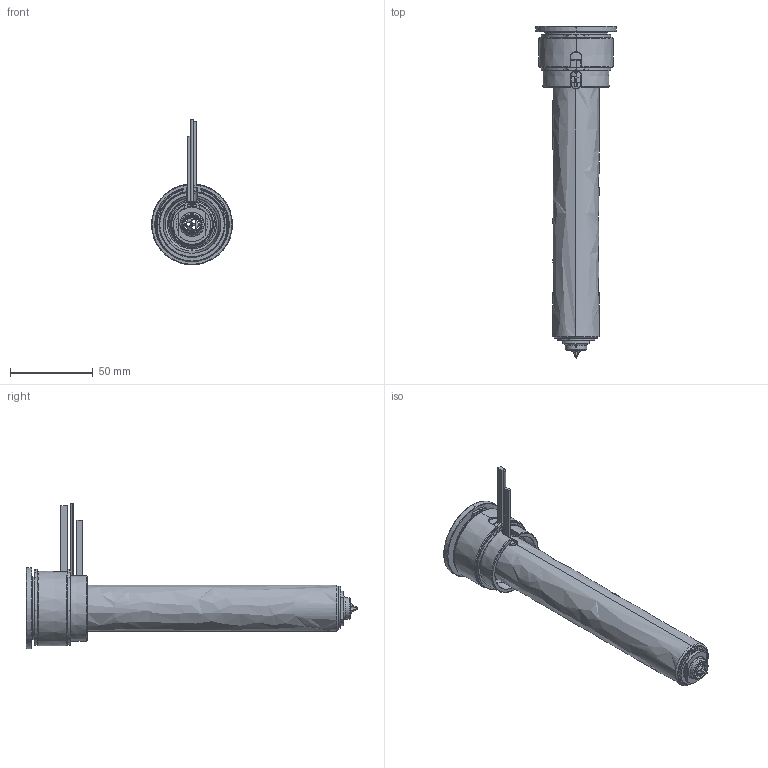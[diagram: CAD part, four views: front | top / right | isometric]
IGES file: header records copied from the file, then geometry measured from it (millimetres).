
Start section: SolidWorks IGES file using analytic representation for surfaces
Global section: file name: C:\Documents and Settings\ws-20\Desktop\TEM\UGEP4504-S-A-0 [Øf-0.88 ØC-09].IGS; native system: SolidWorks 2012; preprocessor: SolidWorks 2012; author: ws-20; date: 120424.085821; units: millimetre
Bounding box: 49 x 200.8 x 88.15 mm (x, y, z)
Surface area: 69946.1 mm2 (no closed solid volume)
Topology: 0 solids, 0 shells, 184 faces, 3406 edges, 3406 vertices
Faces by surface type: revolution 120, bspline 64
